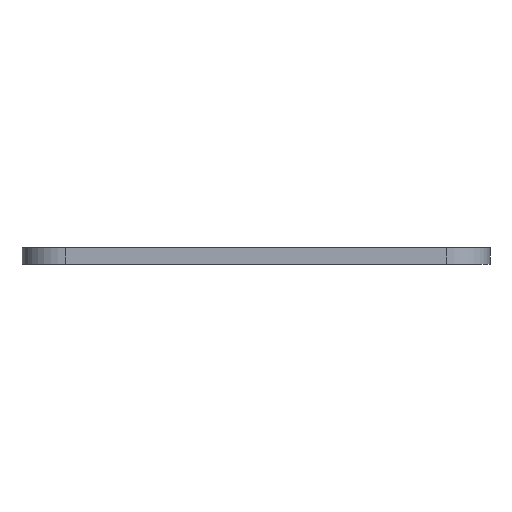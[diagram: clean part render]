
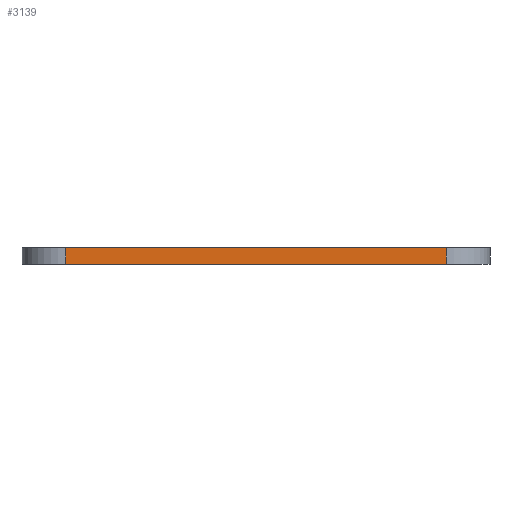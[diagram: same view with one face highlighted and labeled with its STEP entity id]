
A CAD part, left-side view. The second image highlights one B-rep face of the part: STEP entity #3139.
In plain terms, the highlighted planar face has unit normal (-1, 0, 0).
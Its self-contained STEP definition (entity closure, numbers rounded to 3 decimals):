
#366=FACE_OUTER_BOUND('',#532,.T.);
#532=EDGE_LOOP('',(#2232,#2233,#2234,#2235));
#776=LINE('',#4746,#1079);
#777=LINE('',#4750,#1080);
#778=LINE('',#4752,#1081);
#779=LINE('',#4753,#1082);
#1079=VECTOR('',#3800,10.);
#1080=VECTOR('',#3805,10.);
#1081=VECTOR('',#3806,10.);
#1082=VECTOR('',#3807,10.);
#1386=VERTEX_POINT('',#4743);
#1387=VERTEX_POINT('',#4745);
#1388=VERTEX_POINT('',#4749);
#1389=VERTEX_POINT('',#4751);
#1719=EDGE_CURVE('',#1387,#1386,#776,.T.);
#1721=EDGE_CURVE('',#1388,#1386,#777,.T.);
#1722=EDGE_CURVE('',#1389,#1388,#778,.T.);
#1723=EDGE_CURVE('',#1387,#1389,#779,.T.);
#2232=ORIENTED_EDGE('',*,*,#1721,.F.);
#2233=ORIENTED_EDGE('',*,*,#1722,.F.);
#2234=ORIENTED_EDGE('',*,*,#1723,.F.);
#2235=ORIENTED_EDGE('',*,*,#1719,.T.);
#3036=PLANE('',#3351);
#3139=ADVANCED_FACE('',(#366),#3036,.T.);
#3351=AXIS2_PLACEMENT_3D('',#4748,#3803,#3804);
#3800=DIRECTION('',(0.,0.,-1.));
#3803=DIRECTION('center_axis',(-1.,0.,0.));
#3804=DIRECTION('ref_axis',(0.,1.,0.));
#3805=DIRECTION('',(0.,1.,0.));
#3806=DIRECTION('',(0.,0.,-1.));
#3807=DIRECTION('',(0.,-1.,0.));
#4743=CARTESIAN_POINT('',(-70.5,57.25,33.5));
#4745=CARTESIAN_POINT('',(-70.5,57.25,38.5));
#4746=CARTESIAN_POINT('',(-70.5,57.25,38.3));
#4748=CARTESIAN_POINT('Origin',(-70.5,-57.25,38.3));
#4749=CARTESIAN_POINT('',(-70.5,-57.25,33.5));
#4750=CARTESIAN_POINT('',(-70.5,6.525,33.5));
#4751=CARTESIAN_POINT('',(-70.5,-57.25,38.5));
#4752=CARTESIAN_POINT('',(-70.5,-57.25,38.3));
#4753=CARTESIAN_POINT('',(-70.5,-63.775,38.5));
